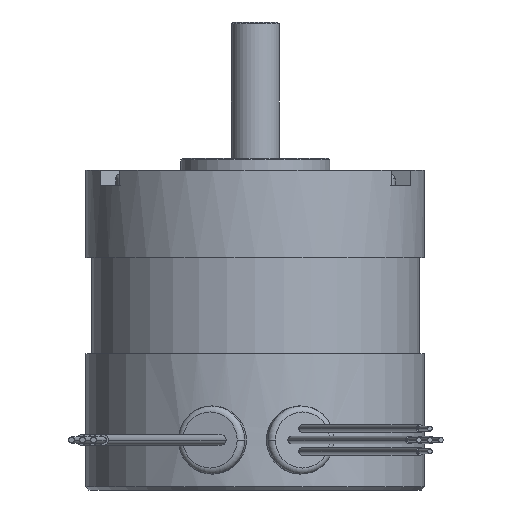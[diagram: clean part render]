
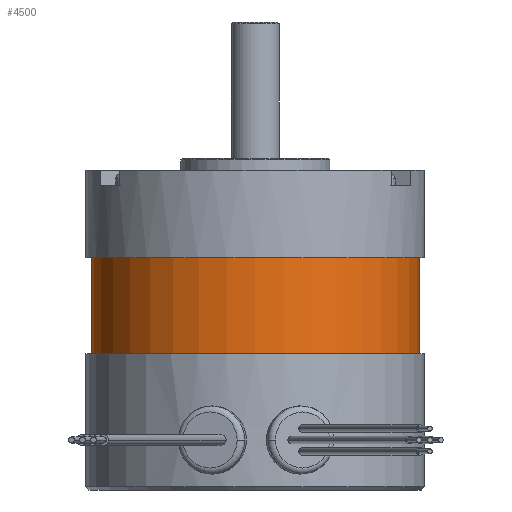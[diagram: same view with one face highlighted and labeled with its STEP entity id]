
A CAD part, front view. The second image highlights one B-rep face of the part: STEP entity #4500.
In plain terms, the highlighted cylindrical face has radius 27.495 mm (diameter 54.991 mm), a partial arc.
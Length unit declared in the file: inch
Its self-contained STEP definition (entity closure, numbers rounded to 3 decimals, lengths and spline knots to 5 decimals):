
#64 = EDGE_LOOP ( 'NONE', ( #2581, #10200, #4329, #3475 ) ) ;
#774 = CARTESIAN_POINT ( 'NONE',  ( 0., 0., -1.21 ) ) ;
#1329 = EDGE_CURVE ( 'NONE', #3441, #12200, #7791, .T. ) ;
#1422 = CARTESIAN_POINT ( 'NONE',  ( -1.0825, 0., -1.21 ) ) ;
#2111 = CARTESIAN_POINT ( 'NONE',  ( 0., 0., -1.21 ) ) ;
#2242 = LINE ( 'NONE', #1422, #7919 ) ;
#2410 = LINE ( 'NONE', #4977, #12954 ) ;
#2426 = CARTESIAN_POINT ( 'NONE',  ( -1.0825, 0., -1.21 ) ) ;
#2581 = ORIENTED_EDGE ( 'NONE', *, *, #8877, .F. ) ;
#2613 = CYLINDRICAL_SURFACE ( 'NONE', #10457, 1.0825 ) ;
#2968 = DIRECTION ( 'NONE',  ( 0., 0., -1. ) ) ;
#3441 = VERTEX_POINT ( 'NONE', #3690 ) ;
#3475 = ORIENTED_EDGE ( 'NONE', *, *, #10011, .T. ) ;
#3690 = CARTESIAN_POINT ( 'NONE',  ( 1.0825, 0., -1.21 ) ) ;
#4329 = ORIENTED_EDGE ( 'NONE', *, *, #11734, .T. ) ;
#4364 = DIRECTION ( 'NONE',  ( 1., 0., 0. ) ) ;
#4500 = ADVANCED_FACE ( 'NONE', ( #12103 ), #2613, .T. ) ;
#4977 = CARTESIAN_POINT ( 'NONE',  ( 1.0825, 0., -1.21 ) ) ;
#7561 = VERTEX_POINT ( 'NONE', #9815 ) ;
#7791 = CIRCLE ( 'NONE', #7819, 1.0825 ) ;
#7819 = AXIS2_PLACEMENT_3D ( 'NONE', #774, #12983, #9575 ) ;
#7919 = VECTOR ( 'NONE', #8890, 39.37008 ) ;
#8877 = EDGE_CURVE ( 'NONE', #12200, #7561, #2242, .T. ) ;
#8890 = DIRECTION ( 'NONE',  ( 0., 0., 1. ) ) ;
#9251 = CARTESIAN_POINT ( 'NONE',  ( 0., 0., -0.575 ) ) ;
#9575 = DIRECTION ( 'NONE',  ( -1., 0., 0. ) ) ;
#9815 = CARTESIAN_POINT ( 'NONE',  ( -1.0825, 0., -0.575 ) ) ;
#9936 = VERTEX_POINT ( 'NONE', #10066 ) ;
#10011 = EDGE_CURVE ( 'NONE', #9936, #7561, #10688, .T. ) ;
#10066 = CARTESIAN_POINT ( 'NONE',  ( 1.0825, 0., -0.575 ) ) ;
#10200 = ORIENTED_EDGE ( 'NONE', *, *, #1329, .F. ) ;
#10248 = DIRECTION ( 'NONE',  ( -1., 0., 0. ) ) ;
#10457 = AXIS2_PLACEMENT_3D ( 'NONE', #2111, #12422, #4364 ) ;
#10688 = CIRCLE ( 'NONE', #11151, 1.0825 ) ;
#11151 = AXIS2_PLACEMENT_3D ( 'NONE', #9251, #2968, #10248 ) ;
#11734 = EDGE_CURVE ( 'NONE', #3441, #9936, #2410, .T. ) ;
#12020 = DIRECTION ( 'NONE',  ( 0., 0., 1. ) ) ;
#12103 = FACE_OUTER_BOUND ( 'NONE', #64, .T. ) ;
#12200 = VERTEX_POINT ( 'NONE', #2426 ) ;
#12422 = DIRECTION ( 'NONE',  ( 0., 0., 1. ) ) ;
#12954 = VECTOR ( 'NONE', #12020, 39.37008 ) ;
#12983 = DIRECTION ( 'NONE',  ( 0., 0., -1. ) ) ;
